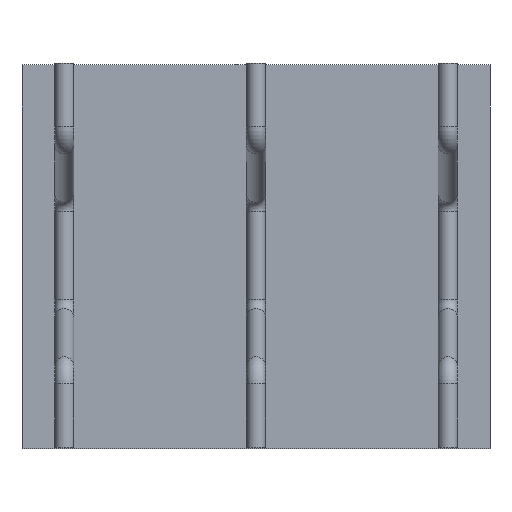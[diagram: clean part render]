
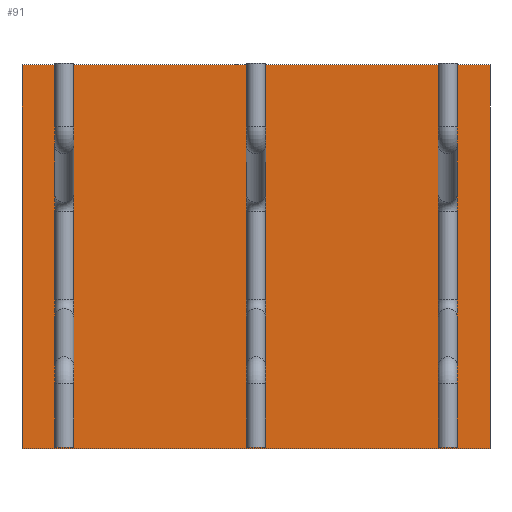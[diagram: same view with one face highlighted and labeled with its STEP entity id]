
A CAD part, top view. The second image highlights one B-rep face of the part: STEP entity #91.
In plain terms, the highlighted planar face has unit normal (0, 0, 1).
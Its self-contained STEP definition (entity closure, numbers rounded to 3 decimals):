
#52=CARTESIAN_POINT('Axis2P3D Location',(0.,0.,0.)) ;
#57=CARTESIAN_POINT('Line Origine',(0.,500.,0.)) ;
#61=CARTESIAN_POINT('Vertex',(610.,500.,0.)) ;
#63=CARTESIAN_POINT('Vertex',(-610.,500.,0.)) ;
#66=CARTESIAN_POINT('Line Origine',(-610.,0.,0.)) ;
#70=CARTESIAN_POINT('Vertex',(-610.,-500.,0.)) ;
#73=CARTESIAN_POINT('Line Origine',(0.,-500.,0.)) ;
#77=CARTESIAN_POINT('Vertex',(610.,-500.,0.)) ;
#80=CARTESIAN_POINT('Line Origine',(610.,0.,0.)) ;
#53=DIRECTION('Axis2P3D Direction',(0.,0.,1.)) ;
#54=DIRECTION('Axis2P3D XDirection',(1.,0.,0.)) ;
#58=DIRECTION('Vector Direction',(1.,0.,0.)) ;
#67=DIRECTION('Vector Direction',(0.,1.,0.)) ;
#74=DIRECTION('Vector Direction',(-1.,0.,0.)) ;
#81=DIRECTION('Vector Direction',(0.,-1.,0.)) ;
#55=AXIS2_PLACEMENT_3D('Plane Axis2P3D',#52,#53,#54) ;
#86=ORIENTED_EDGE('',*,*,#65,.T.) ;
#87=ORIENTED_EDGE('',*,*,#72,.T.) ;
#88=ORIENTED_EDGE('',*,*,#79,.T.) ;
#89=ORIENTED_EDGE('',*,*,#84,.T.) ;
#59=VECTOR('Line Direction',#58,1.) ;
#68=VECTOR('Line Direction',#67,1.) ;
#75=VECTOR('Line Direction',#74,1.) ;
#82=VECTOR('Line Direction',#81,1.) ;
#91=ADVANCED_FACE('Fill.1',(#90),#56,.T.) ;
#65=EDGE_CURVE('',#62,#64,#60,.F.) ;
#72=EDGE_CURVE('',#64,#71,#69,.F.) ;
#79=EDGE_CURVE('',#71,#78,#76,.F.) ;
#84=EDGE_CURVE('',#78,#62,#83,.F.) ;
#85=EDGE_LOOP('',(#86,#87,#88,#89)) ;
#90=FACE_OUTER_BOUND('',#85,.T.) ;
#60=LINE('Line',#57,#59) ;
#69=LINE('Line',#66,#68) ;
#76=LINE('Line',#73,#75) ;
#83=LINE('Line',#80,#82) ;
#56=PLANE('',#55) ;
#62=VERTEX_POINT('',#61) ;
#64=VERTEX_POINT('',#63) ;
#71=VERTEX_POINT('',#70) ;
#78=VERTEX_POINT('',#77) ;
